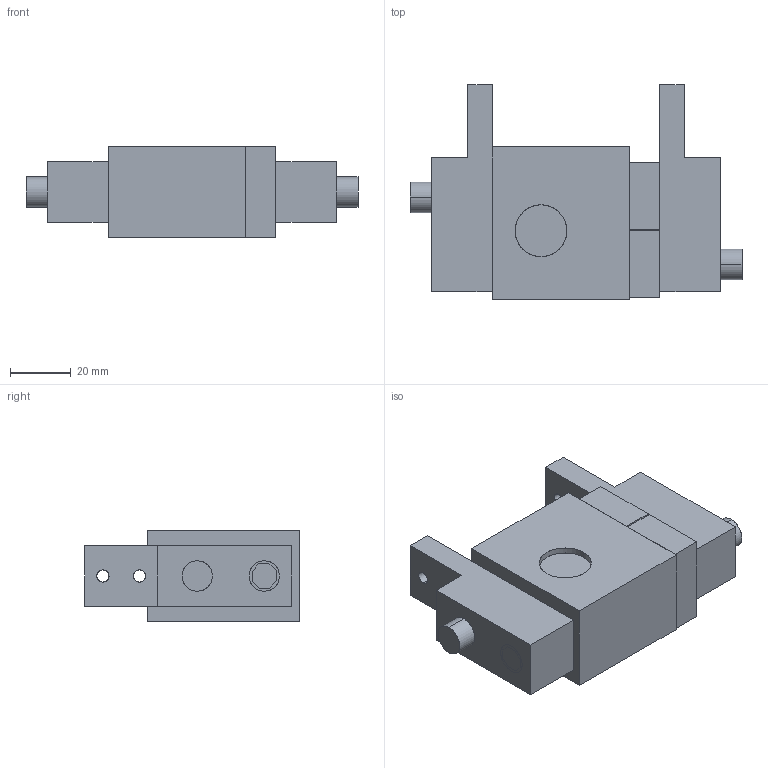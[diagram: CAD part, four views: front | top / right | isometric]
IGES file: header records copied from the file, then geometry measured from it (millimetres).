
Start section: SolidWorks IGES file using analytic representation for surfaces
Global section: file name: H:\GDL.20\GDL.20-close.IGS; native system: SolidWorks 2010; preprocessor: SolidWorks 2010; author: SGA; date: 111107.105246; units: millimetre
Bounding box: 109 x 70.5 x 30 mm (x, y, z)
Surface area: 39342.1 mm2 (no closed solid volume)
Topology: 0 solids, 0 shells, 180 faces, 3108 edges, 3092 vertices
Faces by surface type: revolution 102, bspline 78
